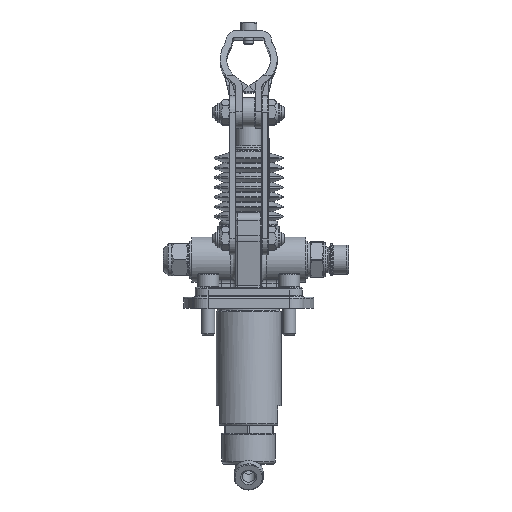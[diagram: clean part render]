
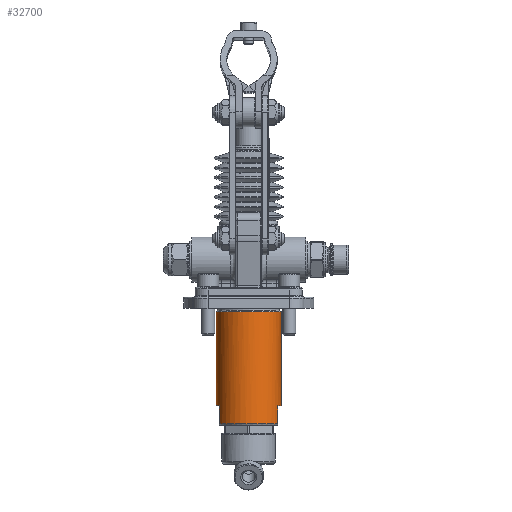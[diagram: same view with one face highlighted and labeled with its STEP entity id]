
A CAD part, left-side view. The second image highlights one B-rep face of the part: STEP entity #32700.
In plain terms, the highlighted cylindrical face has radius 20 mm (diameter 40 mm), a full revolution.
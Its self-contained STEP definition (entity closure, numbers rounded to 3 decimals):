
#32303=CARTESIAN_POINT('',(50.282,16.,-61.));
#32304=VERTEX_POINT('',#32303);
#32305=CARTESIAN_POINT('',(67.718,16.,-61.));
#32306=VERTEX_POINT('',#32305);
#32307=CARTESIAN_POINT('',(59.,34.,-61.));
#32308=DIRECTION('',(0.0,0.0,1.0));
#32309=DIRECTION('',(1.0,0.0,0.0));
#32310=AXIS2_PLACEMENT_3D('',#32307,#32308,#32309);
#32311=CIRCLE('',#32310,20.0);
#32312=EDGE_CURVE('',#32304,#32306,#32311,.T.);
#32328=CARTESIAN_POINT('',(67.718,16.,-72.));
#32329=VERTEX_POINT('',#32328);
#32345=CARTESIAN_POINT('',(67.718,16.,-61.));
#32346=DIRECTION('',(0.0,0.0,-1.0));
#32347=VECTOR('',#32346,11.0);
#32348=LINE('',#32345,#32347);
#32349=EDGE_CURVE('',#32306,#32329,#32348,.T.);
#32352=CARTESIAN_POINT('',(50.282,16.,-72.));
#32353=VERTEX_POINT('',#32352);
#32354=CARTESIAN_POINT('',(50.282,16.,-72.));
#32355=DIRECTION('',(0.0,0.0,1.0));
#32356=VECTOR('',#32355,11.0);
#32357=LINE('',#32354,#32356);
#32358=EDGE_CURVE('',#32353,#32304,#32357,.T.);
#32389=CARTESIAN_POINT('',(50.282,52.,-61.));
#32390=VERTEX_POINT('',#32389);
#32391=CARTESIAN_POINT('',(50.282,52.,-72.));
#32392=VERTEX_POINT('',#32391);
#32393=CARTESIAN_POINT('',(50.282,52.,-61.));
#32394=DIRECTION('',(0.0,0.0,-1.0));
#32395=VECTOR('',#32394,11.0);
#32396=LINE('',#32393,#32395);
#32397=EDGE_CURVE('',#32390,#32392,#32396,.T.);
#32399=CARTESIAN_POINT('',(67.718,52.,-61.));
#32400=VERTEX_POINT('',#32399);
#32407=CARTESIAN_POINT('',(67.718,52.,-72.));
#32408=VERTEX_POINT('',#32407);
#32409=CARTESIAN_POINT('',(67.718,52.,-72.));
#32410=DIRECTION('',(0.0,0.0,1.0));
#32411=VECTOR('',#32410,11.0);
#32412=LINE('',#32409,#32411);
#32413=EDGE_CURVE('',#32408,#32400,#32412,.T.);
#32459=CARTESIAN_POINT('',(59.,34.,-61.));
#32460=DIRECTION('',(0.0,0.0,1.0));
#32461=DIRECTION('',(1.0,0.0,0.0));
#32462=AXIS2_PLACEMENT_3D('',#32459,#32460,#32461);
#32463=CIRCLE('',#32462,20.0);
#32464=EDGE_CURVE('',#32400,#32390,#32463,.T.);
#32476=CARTESIAN_POINT('',(59.,34.,-72.));
#32477=DIRECTION('',(0.0,0.0,-1.0));
#32478=DIRECTION('',(1.0,0.0,0.0));
#32479=AXIS2_PLACEMENT_3D('',#32476,#32477,#32478);
#32480=CIRCLE('',#32479,20.0);
#32481=EDGE_CURVE('',#32353,#32392,#32480,.T.);
#32664=CARTESIAN_POINT('',(59.,34.,-72.));
#32665=DIRECTION('',(0.0,0.0,-1.0));
#32666=DIRECTION('',(1.0,0.0,0.0));
#32667=AXIS2_PLACEMENT_3D('',#32664,#32665,#32666);
#32668=CIRCLE('',#32667,20.0);
#32669=EDGE_CURVE('',#32408,#32329,#32668,.T.);
#32674=CARTESIAN_POINT('',(59.,34.,-73.));
#32675=DIRECTION('',(0.,0.,1.0));
#32676=DIRECTION('',(1.0,0.0,0.0));
#32677=AXIS2_PLACEMENT_3D('',#32674,#32675,#32676);
#32678=CYLINDRICAL_SURFACE('',#32677,20.0);
#32679=ORIENTED_EDGE('',*,*,#32349,.T.);
#32680=ORIENTED_EDGE('',*,*,#32669,.F.);
#32681=ORIENTED_EDGE('',*,*,#32413,.T.);
#32682=ORIENTED_EDGE('',*,*,#32464,.T.);
#32683=ORIENTED_EDGE('',*,*,#32397,.T.);
#32684=ORIENTED_EDGE('',*,*,#32481,.F.);
#32685=ORIENTED_EDGE('',*,*,#32358,.T.);
#32686=ORIENTED_EDGE('',*,*,#32312,.T.);
#32687=EDGE_LOOP('',(#32679,#32680,#32681,#32682,#32683,#32684,#32685,#32686));
#32688=FACE_OUTER_BOUND('',#32687,.T.);
#32689=CARTESIAN_POINT('',(39.,34.,-3.));
#32690=VERTEX_POINT('',#32689);
#32691=CARTESIAN_POINT('',(59.,34.,-3.));
#32692=DIRECTION('',(0.0,0.0,1.0));
#32693=DIRECTION('',(1.0,0.0,0.0));
#32694=AXIS2_PLACEMENT_3D('',#32691,#32692,#32693);
#32695=CIRCLE('',#32694,20.0);
#32696=EDGE_CURVE('',#32690,#32690,#32695,.T.);
#32697=ORIENTED_EDGE('',*,*,#32696,.F.);
#32698=EDGE_LOOP('',(#32697));
#32699=FACE_BOUND('',#32698,.T.);
#32700=ADVANCED_FACE('',(#32688,#32699),#32678,.T.);
